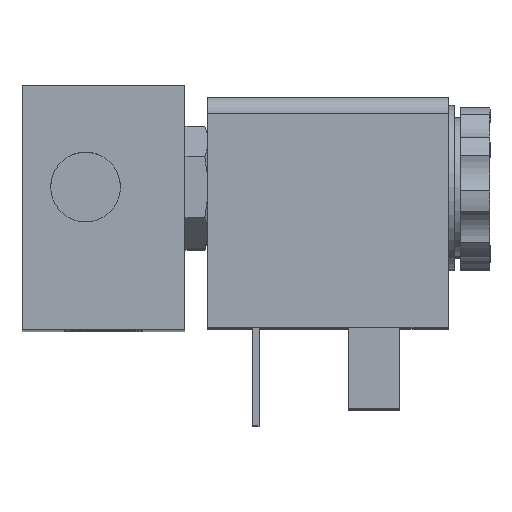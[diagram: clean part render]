
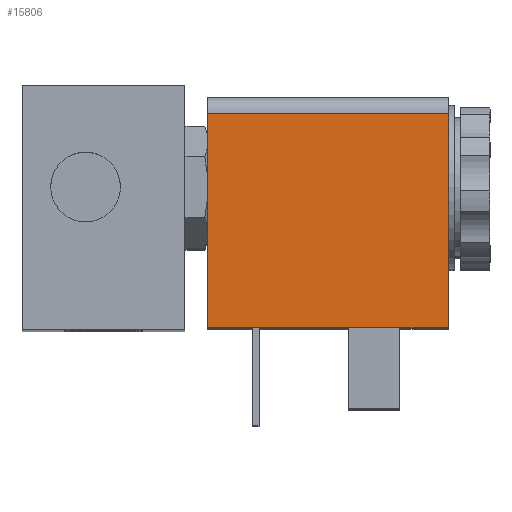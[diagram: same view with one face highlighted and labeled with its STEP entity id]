
A CAD part, top view. The second image highlights one B-rep face of the part: STEP entity #15806.
In plain terms, the highlighted planar face has unit normal (0, 0, 1) as drawn and (-1, 0, 0) by its records, which use the part's own axes.
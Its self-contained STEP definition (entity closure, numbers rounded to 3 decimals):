
#1956 = CARTESIAN_POINT ( 'NONE',  ( -11., -17.2, 0. ) ) ;
#1957 = PLANE ( 'NONE',  #31874 ) ;
#1966 = DIRECTION ( 'NONE',  ( -1., 0., 0. ) ) ;
#1967 = DIRECTION ( 'NONE',  ( 0., 0.707, 0.707 ) ) ;
#2252 = FACE_OUTER_BOUND ( 'NONE', #17225, .T. ) ;
#6149 = CARTESIAN_POINT ( 'NONE',  ( -11., -17.2, 29.5 ) ) ;
#6150 = CARTESIAN_POINT ( 'NONE',  ( -11., 9., 29.5 ) ) ;
#6151 = CARTESIAN_POINT ( 'NONE',  ( -11., 9., 0. ) ) ;
#6152 = CARTESIAN_POINT ( 'NONE',  ( -11., -17.2, 0. ) ) ;
#7656 = LINE ( 'NONE', #9868, #7670 ) ;
#7663 = LINE ( 'NONE', #9872, #7672 ) ;
#7670 = VECTOR ( 'NONE', #9874, 1000. ) ;
#7671 = VECTOR ( 'NONE', #9884, 1000. ) ;
#7672 = VECTOR ( 'NONE', #9876, 1000. ) ;
#7673 = LINE ( 'NONE', #9883, #7671 ) ;
#7678 = LINE ( 'NONE', #11245, #7679 ) ;
#7679 = VECTOR ( 'NONE', #11246, 1000. ) ;
#9868 = CARTESIAN_POINT ( 'NONE',  ( -11., 11., 29.5 ) ) ;
#9872 = CARTESIAN_POINT ( 'NONE',  ( -11., 11., 0. ) ) ;
#9874 = DIRECTION ( 'NONE',  ( 0., 1., 0. ) ) ;
#9876 = DIRECTION ( 'NONE',  ( 0., -1., 0. ) ) ;
#9883 = CARTESIAN_POINT ( 'NONE',  ( -11., 9., 0. ) ) ;
#9884 = DIRECTION ( 'NONE',  ( 0., 0., 1. ) ) ;
#11245 = CARTESIAN_POINT ( 'NONE',  ( -11., -17.2, 0. ) ) ;
#11246 = DIRECTION ( 'NONE',  ( 0., 0., 1. ) ) ;
#15806 = ADVANCED_FACE ( 'NONE', ( #2252 ), #1957, .T. ) ;
#16728 = VERTEX_POINT ( 'NONE', #6149 ) ;
#16729 = VERTEX_POINT ( 'NONE', #6150 ) ;
#16730 = VERTEX_POINT ( 'NONE', #6151 ) ;
#16731 = VERTEX_POINT ( 'NONE', #6152 ) ;
#17225 = EDGE_LOOP ( 'NONE', ( #21639, #21640, #21641, #21642 ) ) ;
#20468 = EDGE_CURVE ( 'NONE', #16728, #16729, #7656, .T. ) ;
#20469 = EDGE_CURVE ( 'NONE', #16730, #16731, #7663, .T. ) ;
#20472 = EDGE_CURVE ( 'NONE', #16730, #16729, #7673, .T. ) ;
#20473 = EDGE_CURVE ( 'NONE', #16731, #16728, #7678, .T. ) ;
#21639 = ORIENTED_EDGE ( 'NONE', *, *, #20472, .F. ) ;
#21640 = ORIENTED_EDGE ( 'NONE', *, *, #20469, .T. ) ;
#21641 = ORIENTED_EDGE ( 'NONE', *, *, #20473, .T. ) ;
#21642 = ORIENTED_EDGE ( 'NONE', *, *, #20468, .T. ) ;
#31874 = AXIS2_PLACEMENT_3D ( 'NONE', #1956, #1966, #1967 ) ;
